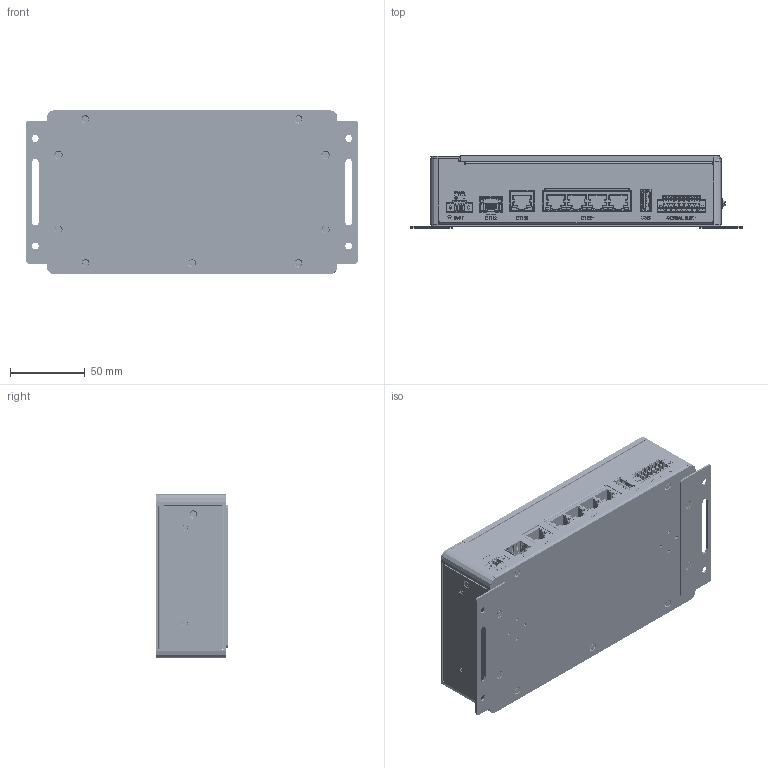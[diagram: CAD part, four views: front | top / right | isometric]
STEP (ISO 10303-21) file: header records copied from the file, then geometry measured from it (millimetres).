
FILE_DESCRIPTION (( 'STEP AP203' ), '1' );
FILE_NAME ('VRM-2021-59-1_ICR-4401.STEP', '2021-06-04T08:12:32', ( '' ), ( '' ), 'SwSTEP 2.0', 'SolidWorks 2021', '' );
FILE_SCHEMA (( 'CONFIG_CONTROL_DESIGN' ));
Length unit declared in the file: millimetre
Products named in the file (44): Nameplate_ICR-4401_3; Front cover_ICR-4000_ICR-4401; 1930000741-11_默_; 1935130610_默_; 1930004041-11_默_; Mini pccie Heat sink_ICR-4000; Bottom cover_ICR-4000; Open CASCADE STEP translator 6.8 1.2.1.1.step.IGS_2; 1930000741-11_默__2; Wall Bracket_ICR-4000; Nameplate_ICR-4401_2; 1930004041-11_默__2; ADVANTECH Label_ICR-4000; 19310305C0_默_; VRM-2021-59-1_ICR-4401; 1930008006_M3 TORX Screw; 1930004041-11_默__3; 1930000741-11_默__3; Thermal pad 44x29 t=2mm;K6; lightpipe tray_ICR-4000; led lightpipe; Tray_ICR-4000; 1930001782_S_S D=5 FH=120+M2.5X5L ST BZn_默_; Top Cover_ICR-4000; 1930005199_默_; Nameplate_ICR-4401; Nameplate_ICR-4401_4; lightpipe assembly_ICR-4000; Nameplate_ICR-4401_6; Nameplate_ICR-4401_5; Back cover_ICR-4000_ICR-4401; 1935130610_默__2; 1990033157N000_Thermal pad46x30,T=1.5 k4; Thermal pad 14x9 T=2.5mm,K=6; 1930003479_默_; sim cover_ICR-4000_ICR-4401; CPU Heat sink_ICR-4000; Nameplate_ICR-4401_7; Thermal pad 17x17 t=1.5mm;k6; B-ICR44xx-4.a_3D-2021-02-05_ver2
Assembly tree (74 placements, depth 3):
  VRM-2021-59-1_ICR-4401
    Top Cover_ICR-4000
    CPU Heat sink_ICR-4000
    Mini pccie Heat sink_ICR-4000
    Front cover_ICR-4000_ICR-4401
    Back cover_ICR-4000_ICR-4401
    Bottom cover_ICR-4000
    sim cover_ICR-4000_ICR-4401
    1930001782_S_S D=5 FH=120+M2.5X5L ST BZn_默_
    Tray_ICR-4000
    Wall Bracket_ICR-4000  x2
    lightpipe assembly_ICR-4000
      led lightpipe
      lightpipe tray_ICR-4000
    ADVANTECH Label_ICR-4000
    1930003479_默_  x10
    19310305C0_默_  x4
    1930005199_默_  x2
    1930000741-11_默_  x4
      1930000741-11_默_
      1930000741-11_默__3
      1930000741-11_默__2
    1930008006_M3 TORX Screw  x9
    1930004041-11_默_  x6
      1930004041-11_默_
      1930004041-11_默__3
      1930004041-11_默__2
    Thermal pad 14x9 T=2.5mm,K=6  x2
    Thermal pad 17x17 t=1.5mm;k6
    Thermal pad 44x29 t=2mm;K6
    1990033157N000_Thermal pad46x30,T=1.5 k4
    Nameplate_ICR-4401
      Nameplate_ICR-4401_2
      Nameplate_ICR-4401_6
      Nameplate_ICR-4401_4
      Nameplate_ICR-4401_3
      Nameplate_ICR-4401_7
      Nameplate_ICR-4401_5
      Nameplate_ICR-4401
    1935130610_默_
      1935130610_默_
      1935130610_默__2
    B-ICR44xx-4.a_3D-2021-02-05_ver2
    Open CASCADE STEP translator 6.8 1.2.1.1.step.IGS_2
Bounding box: 222.7 x 48.2 x 110.44 mm (x, y, z)
Topology: 83 solids, 2161 shells, 12835 faces, 46841 edges, 35824 vertices
Faces by surface type: plane 9745, cylinder 2250, bspline 594, cone 195, torus 33, sphere 18
Entity records: 504481 total; most frequent: CARTESIAN_POINT 134752, DIRECTION 69636, ORIENTED_EDGE 66325, EDGE_CURVE 44685, VECTOR 35850, LINE 35850, VERTEX_POINT 34448, AXIS2_PLACEMENT_3D 16893
